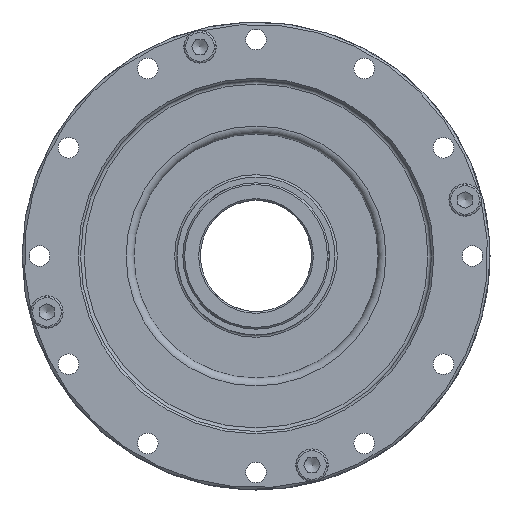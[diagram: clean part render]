
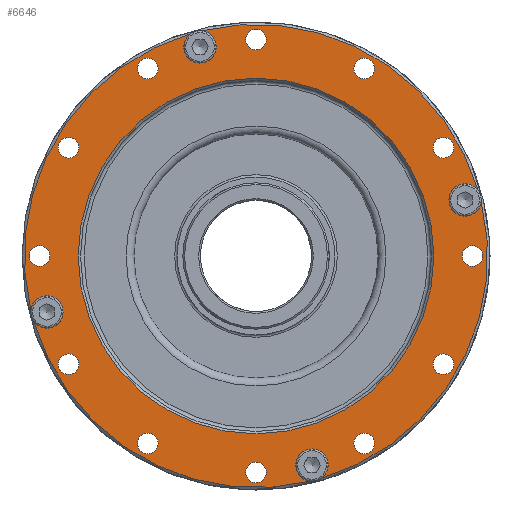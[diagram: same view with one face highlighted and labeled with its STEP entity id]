
A CAD part, left-side view. The second image highlights one B-rep face of the part: STEP entity #6646.
In plain terms, the highlighted planar face has unit normal (-1, 0, 0).
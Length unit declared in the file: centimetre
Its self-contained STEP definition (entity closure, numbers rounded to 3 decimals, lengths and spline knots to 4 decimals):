
#1510=FACE_BOUND($,#2140,.T.);
#1511=FACE_BOUND($,#2141,.T.);
#1512=FACE_BOUND($,#2142,.T.);
#1513=FACE_BOUND($,#2143,.T.);
#1514=FACE_BOUND($,#2144,.T.);
#1515=FACE_BOUND($,#2145,.T.);
#1516=FACE_BOUND($,#2146,.T.);
#1517=FACE_BOUND($,#2147,.T.);
#1518=FACE_BOUND($,#2148,.T.);
#1519=FACE_BOUND($,#2149,.T.);
#1520=FACE_BOUND($,#2150,.T.);
#1521=FACE_BOUND($,#2151,.T.);
#1522=FACE_BOUND($,#2152,.T.);
#1523=FACE_BOUND($,#2153,.T.);
#2140=EDGE_LOOP($,(#5937));
#2141=EDGE_LOOP($,(#5938));
#2142=EDGE_LOOP($,(#5939));
#2143=EDGE_LOOP($,(#5940));
#2144=EDGE_LOOP($,(#5941));
#2145=EDGE_LOOP($,(#5942));
#2146=EDGE_LOOP($,(#5943));
#2147=EDGE_LOOP($,(#5944));
#2148=EDGE_LOOP($,(#5945));
#2149=EDGE_LOOP($,(#5946));
#2150=EDGE_LOOP($,(#5947));
#2151=EDGE_LOOP($,(#5948));
#2152=EDGE_LOOP($,(#5949));
#2153=EDGE_LOOP($,(#5950,#5951,#5952,#5953,#5954,#5955,#5956,#5957));
#2515=CIRCLE($,#7159,0.275);
#2520=CIRCLE($,#7175,0.275);
#2540=CIRCLE($,#7209,0.175);
#2541=CIRCLE($,#7211,0.175);
#2542=CIRCLE($,#7213,0.175);
#2543=CIRCLE($,#7215,0.175);
#2544=CIRCLE($,#7217,0.175);
#2545=CIRCLE($,#7219,0.175);
#2546=CIRCLE($,#7221,0.175);
#2547=CIRCLE($,#7223,0.175);
#2548=CIRCLE($,#7225,0.175);
#2549=CIRCLE($,#7227,0.175);
#2550=CIRCLE($,#7229,0.175);
#2551=CIRCLE($,#7231,0.175);
#2713=CIRCLE($,#7597,3.04);
#2714=CIRCLE($,#7599,3.96);
#2716=CIRCLE($,#7601,3.96);
#2717=CIRCLE($,#7602,3.96);
#2719=CIRCLE($,#7604,3.96);
#2723=CIRCLE($,#7619,0.275);
#2726=CIRCLE($,#7626,0.275);
#3086=VERTEX_POINT($,#11176);
#3087=VERTEX_POINT($,#11177);
#3102=VERTEX_POINT($,#11238);
#3103=VERTEX_POINT($,#11239);
#3137=VERTEX_POINT($,#11344);
#3138=VERTEX_POINT($,#11347);
#3139=VERTEX_POINT($,#11350);
#3140=VERTEX_POINT($,#11353);
#3141=VERTEX_POINT($,#11356);
#3142=VERTEX_POINT($,#11359);
#3143=VERTEX_POINT($,#11362);
#3144=VERTEX_POINT($,#11365);
#3145=VERTEX_POINT($,#11368);
#3146=VERTEX_POINT($,#11371);
#3147=VERTEX_POINT($,#11374);
#3148=VERTEX_POINT($,#11377);
#3302=VERTEX_POINT($,#12410);
#3303=VERTEX_POINT($,#12413);
#3304=VERTEX_POINT($,#12415);
#3305=VERTEX_POINT($,#12418);
#3306=VERTEX_POINT($,#12420);
#3866=EDGE_CURVE($,#3087,#3086,#2515,.T.);
#3889=EDGE_CURVE($,#3103,#3102,#2520,.T.);
#3921=EDGE_CURVE($,#3137,#3137,#2540,.T.);
#3922=EDGE_CURVE($,#3138,#3138,#2541,.T.);
#3923=EDGE_CURVE($,#3139,#3139,#2542,.T.);
#3924=EDGE_CURVE($,#3140,#3140,#2543,.T.);
#3925=EDGE_CURVE($,#3141,#3141,#2544,.T.);
#3926=EDGE_CURVE($,#3142,#3142,#2545,.T.);
#3927=EDGE_CURVE($,#3143,#3143,#2546,.T.);
#3928=EDGE_CURVE($,#3144,#3144,#2547,.T.);
#3929=EDGE_CURVE($,#3145,#3145,#2548,.T.);
#3930=EDGE_CURVE($,#3146,#3146,#2549,.T.);
#3931=EDGE_CURVE($,#3147,#3147,#2550,.T.);
#3932=EDGE_CURVE($,#3148,#3148,#2551,.T.);
#4163=EDGE_CURVE($,#3302,#3302,#2713,.T.);
#4164=EDGE_CURVE($,#3103,#3303,#2714,.T.);
#4166=EDGE_CURVE($,#3304,#3086,#2716,.T.);
#4167=EDGE_CURVE($,#3087,#3305,#2717,.T.);
#4169=EDGE_CURVE($,#3306,#3102,#2719,.T.);
#4191=EDGE_CURVE($,#3304,#3303,#2723,.T.);
#4194=EDGE_CURVE($,#3306,#3305,#2726,.T.);
#5937=ORIENTED_EDGE($,*,*,#4163,.F.);
#5938=ORIENTED_EDGE($,*,*,#3932,.T.);
#5939=ORIENTED_EDGE($,*,*,#3931,.T.);
#5940=ORIENTED_EDGE($,*,*,#3930,.T.);
#5941=ORIENTED_EDGE($,*,*,#3929,.T.);
#5942=ORIENTED_EDGE($,*,*,#3928,.T.);
#5943=ORIENTED_EDGE($,*,*,#3927,.T.);
#5944=ORIENTED_EDGE($,*,*,#3926,.T.);
#5945=ORIENTED_EDGE($,*,*,#3925,.T.);
#5946=ORIENTED_EDGE($,*,*,#3924,.T.);
#5947=ORIENTED_EDGE($,*,*,#3923,.T.);
#5948=ORIENTED_EDGE($,*,*,#3922,.T.);
#5949=ORIENTED_EDGE($,*,*,#3921,.T.);
#5950=ORIENTED_EDGE($,*,*,#4194,.T.);
#5951=ORIENTED_EDGE($,*,*,#4167,.F.);
#5952=ORIENTED_EDGE($,*,*,#3866,.T.);
#5953=ORIENTED_EDGE($,*,*,#4166,.F.);
#5954=ORIENTED_EDGE($,*,*,#4191,.T.);
#5955=ORIENTED_EDGE($,*,*,#4164,.F.);
#5956=ORIENTED_EDGE($,*,*,#3889,.T.);
#5957=ORIENTED_EDGE($,*,*,#4169,.F.);
#6211=PLANE($,#7625);
#6646=ADVANCED_FACE($,(#1510,#1511,#1512,#1513,#1514,#1515,#1516,#1517,
#1518,#1519,#1520,#1521,#1522,#1523),#6211,.T.);
#7159=AXIS2_PLACEMENT_3D($,#11199,#8752,#8753);
#7175=AXIS2_PLACEMENT_3D($,#11261,#8796,#8797);
#7209=AXIS2_PLACEMENT_3D($,#11345,#8870,#8871);
#7211=AXIS2_PLACEMENT_3D($,#11348,#8874,#8875);
#7213=AXIS2_PLACEMENT_3D($,#11351,#8878,#8879);
#7215=AXIS2_PLACEMENT_3D($,#11354,#8882,#8883);
#7217=AXIS2_PLACEMENT_3D($,#11357,#8886,#8887);
#7219=AXIS2_PLACEMENT_3D($,#11360,#8890,#8891);
#7221=AXIS2_PLACEMENT_3D($,#11363,#8894,#8895);
#7223=AXIS2_PLACEMENT_3D($,#11366,#8898,#8899);
#7225=AXIS2_PLACEMENT_3D($,#11369,#8902,#8903);
#7227=AXIS2_PLACEMENT_3D($,#11372,#8906,#8907);
#7229=AXIS2_PLACEMENT_3D($,#11375,#8910,#8911);
#7231=AXIS2_PLACEMENT_3D($,#11378,#8914,#8915);
#7597=AXIS2_PLACEMENT_3D($,#12411,#9671,#9672);
#7599=AXIS2_PLACEMENT_3D($,#12414,#9675,#9676);
#7601=AXIS2_PLACEMENT_3D($,#12417,#9679,#9680);
#7602=AXIS2_PLACEMENT_3D($,#12419,#9681,#9682);
#7604=AXIS2_PLACEMENT_3D($,#12422,#9685,#9686);
#7619=AXIS2_PLACEMENT_3D($,#12481,#9727,#9728);
#7625=AXIS2_PLACEMENT_3D($,#12489,#9739,#9740);
#7626=AXIS2_PLACEMENT_3D($,#12490,#9741,#9742);
#8752=DIRECTION('center_axis',(1.,0.,0.));
#8753=DIRECTION('ref_axis',(0.,-1.,0.));
#8796=DIRECTION('center_axis',(1.,0.,0.));
#8797=DIRECTION('ref_axis',(0.,1.,0.));
#8870=DIRECTION('center_axis',(1.,0.,0.));
#8871=DIRECTION('ref_axis',(0.,0.,1.));
#8874=DIRECTION('center_axis',(1.,0.,0.));
#8875=DIRECTION('ref_axis',(0.,-0.5,0.866));
#8878=DIRECTION('center_axis',(1.,0.,0.));
#8879=DIRECTION('ref_axis',(0.,-0.866,0.5));
#8882=DIRECTION('center_axis',(1.,0.,0.));
#8883=DIRECTION('ref_axis',(0.,-1.,0.));
#8886=DIRECTION('center_axis',(1.,0.,0.));
#8887=DIRECTION('ref_axis',(0.,-0.866,-0.5));
#8890=DIRECTION('center_axis',(1.,0.,0.));
#8891=DIRECTION('ref_axis',(0.,-0.5,-0.866));
#8894=DIRECTION('center_axis',(1.,0.,0.));
#8895=DIRECTION('ref_axis',(0.,0.,-1.));
#8898=DIRECTION('center_axis',(1.,0.,0.));
#8899=DIRECTION('ref_axis',(0.,0.5,-0.866));
#8902=DIRECTION('center_axis',(1.,0.,0.));
#8903=DIRECTION('ref_axis',(0.,0.866,-0.5));
#8906=DIRECTION('center_axis',(1.,0.,0.));
#8907=DIRECTION('ref_axis',(0.,1.,0.));
#8910=DIRECTION('center_axis',(1.,0.,0.));
#8911=DIRECTION('ref_axis',(0.,0.866,0.5));
#8914=DIRECTION('center_axis',(1.,0.,0.));
#8915=DIRECTION('ref_axis',(0.,0.5,0.866));
#9671=DIRECTION('center_axis',(-1.,0.,0.));
#9672=DIRECTION('ref_axis',(0.,-1.,0.));
#9675=DIRECTION('center_axis',(1.,0.,0.));
#9676=DIRECTION('ref_axis',(0.,-1.,0.));
#9679=DIRECTION('center_axis',(1.,0.,0.));
#9680=DIRECTION('ref_axis',(0.,-1.,0.));
#9681=DIRECTION('center_axis',(1.,0.,0.));
#9682=DIRECTION('ref_axis',(0.,-1.,0.));
#9685=DIRECTION('center_axis',(1.,0.,0.));
#9686=DIRECTION('ref_axis',(0.,-1.,0.));
#9727=DIRECTION('center_axis',(1.,0.,0.));
#9728=DIRECTION('ref_axis',(0.,0.,1.));
#9739=DIRECTION('center_axis',(-1.,0.,0.));
#9740=DIRECTION('ref_axis',(0.,0.,1.));
#9741=DIRECTION('center_axis',(1.,0.,0.));
#9742=DIRECTION('ref_axis',(0.,0.,-1.));
#11176=CARTESIAN_POINT('',(-0.3,-3.8,1.1142));
#11177=CARTESIAN_POINT('',(-0.3,-3.848,0.9351));
#11199=CARTESIAN_POINT('Origin',(-0.3,-3.5739,0.9576));
#11238=CARTESIAN_POINT('',(-0.3,3.8,-1.1142));
#11239=CARTESIAN_POINT('',(-0.3,3.848,-0.9351));
#11261=CARTESIAN_POINT('Origin',(-0.3,3.5739,-0.9576));
#11344=CARTESIAN_POINT('',(-0.3,3.7,0.175));
#11345=CARTESIAN_POINT('Origin',(-0.3,3.7,0.));
#11347=CARTESIAN_POINT('',(-0.3,3.1168,2.0016));
#11348=CARTESIAN_POINT('Origin',(-0.3,3.2043,1.85));
#11350=CARTESIAN_POINT('',(-0.3,1.6984,3.2918));
#11351=CARTESIAN_POINT('Origin',(-0.3,1.85,3.2043));
#11353=CARTESIAN_POINT('',(-0.3,-0.175,3.7));
#11354=CARTESIAN_POINT('Origin',(-0.3,0.,3.7));
#11356=CARTESIAN_POINT('',(-0.3,-2.0016,3.1168));
#11357=CARTESIAN_POINT('Origin',(-0.3,-1.85,3.2043));
#11359=CARTESIAN_POINT('',(-0.3,-3.2918,1.6984));
#11360=CARTESIAN_POINT('Origin',(-0.3,-3.2043,1.85));
#11362=CARTESIAN_POINT('',(-0.3,-3.7,-0.175));
#11363=CARTESIAN_POINT('Origin',(-0.3,-3.7,0.));
#11365=CARTESIAN_POINT('',(-0.3,-3.1168,-2.0016));
#11366=CARTESIAN_POINT('Origin',(-0.3,-3.2043,-1.85));
#11368=CARTESIAN_POINT('',(-0.3,-1.6984,-3.2918));
#11369=CARTESIAN_POINT('Origin',(-0.3,-1.85,-3.2043));
#11371=CARTESIAN_POINT('',(-0.3,0.175,-3.7));
#11372=CARTESIAN_POINT('Origin',(-0.3,0.,-3.7));
#11374=CARTESIAN_POINT('',(-0.3,2.0016,-3.1168));
#11375=CARTESIAN_POINT('Origin',(-0.3,1.85,-3.2043));
#11377=CARTESIAN_POINT('',(-0.3,3.2918,-1.6984));
#11378=CARTESIAN_POINT('Origin',(-0.3,3.2043,-1.85));
#12410=CARTESIAN_POINT('',(-0.3,3.04,0.));
#12411=CARTESIAN_POINT('Origin',(-0.3,0.,0.));
#12413=CARTESIAN_POINT('',(-0.3,1.1142,3.8));
#12414=CARTESIAN_POINT('Origin',(-0.3,0.,0.));
#12415=CARTESIAN_POINT('',(-0.3,0.9351,3.848));
#12417=CARTESIAN_POINT('Origin',(-0.3,0.,0.));
#12418=CARTESIAN_POINT('',(-0.3,-1.1142,-3.8));
#12419=CARTESIAN_POINT('Origin',(-0.3,0.,0.));
#12420=CARTESIAN_POINT('',(-0.3,-0.9351,-3.848));
#12422=CARTESIAN_POINT('Origin',(-0.3,0.,0.));
#12481=CARTESIAN_POINT('Origin',(-0.3,0.9576,3.5739));
#12489=CARTESIAN_POINT('Origin',(-0.3,4.,0.));
#12490=CARTESIAN_POINT('Origin',(-0.3,-0.9576,-3.5739));
